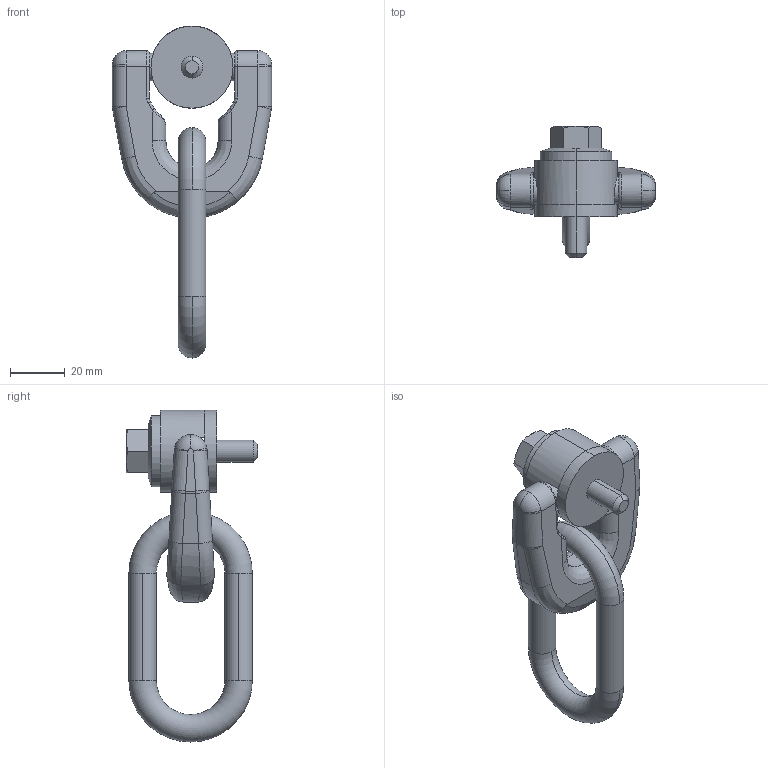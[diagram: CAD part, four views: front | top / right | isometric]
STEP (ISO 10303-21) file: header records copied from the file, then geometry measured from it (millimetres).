
FILE_DESCRIPTION (( 'STEP AP203' ), '1' );
FILE_NAME ('63150.W0231.step', '2013-12-13T11:54:22', ( 'User' ), ( '' ), 'SwSTEP 2.0', 'SolidWorks 2009', '' );
FILE_SCHEMA (( 'CONFIG_CONTROL_DESIGN' ));
Length unit declared in the file: millimetre
Products named in the file (4): Part1_63150.W0231; Part2A; 63150.W0231; Part3_63150.W0231
Assembly tree (3 placements, depth 2):
  63150.W0231
    Part1_63150.W0231
    Part3_63150.W0231
    Part2A
Bounding box: 58 x 48 x 121 mm (x, y, z)
Volume: 59649.9 mm3; surface area: 18801.4 mm2
Topology: 3 solids, 3 shells, 133 faces, 319 edges, 190 vertices
Faces by surface type: cylinder 41, plane 33, bspline 33, torus 12, cone 10, sphere 4
Entity records: 5611 total; most frequent: CARTESIAN_POINT 2343, ORIENTED_EDGE 634, DIRECTION 582, EDGE_CURVE 317, AXIS2_PLACEMENT_3D 237, VERTEX_POINT 190, EDGE_LOOP 137, ADVANCED_FACE 133
